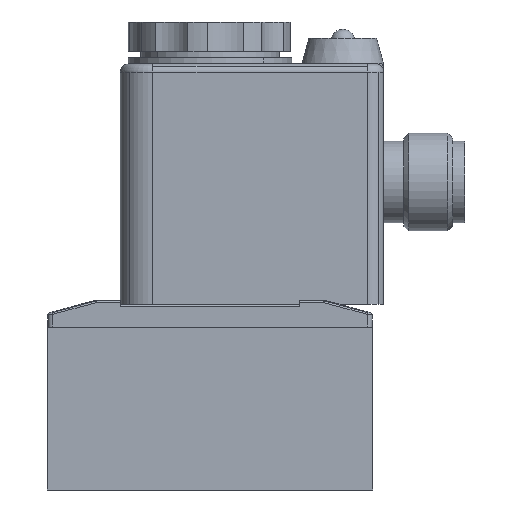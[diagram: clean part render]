
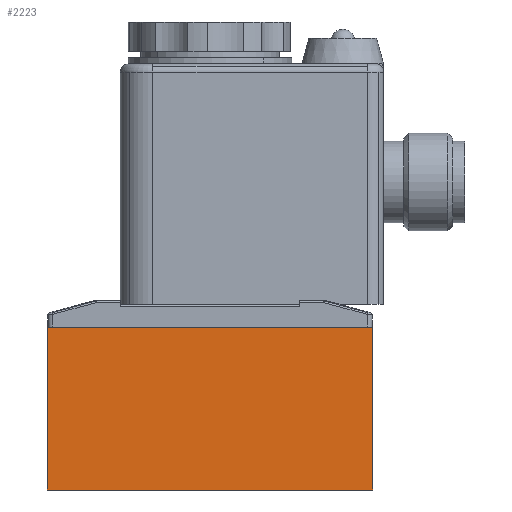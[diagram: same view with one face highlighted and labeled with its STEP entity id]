
A CAD part, front view. The second image highlights one B-rep face of the part: STEP entity #2223.
In plain terms, the highlighted planar face has unit normal (0, -1, 0).
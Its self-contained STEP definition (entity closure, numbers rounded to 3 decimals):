
#2046 = EDGE_CURVE ( 'NONE', #16296, #16231, #6320, .T. ) ;
#2223 = ADVANCED_FACE ( 'NONE', ( #6766 ), #7926, .T. ) ;
#2493 = EDGE_CURVE ( 'NONE', #16301, #16296, #11892, .T. ) ;
#2495 = EDGE_CURVE ( 'NONE', #16301, #16292, #11894, .T. ) ;
#2499 = EDGE_CURVE ( 'NONE', #16292, #16231, #13222, .T. ) ;
#3473 = AXIS2_PLACEMENT_3D ( 'NONE', #7925, #7932, #7933 ) ;
#4319 = EDGE_LOOP ( 'NONE', ( #8538, #8490, #8512, #8533 ) ) ;
#6317 = VECTOR ( 'NONE', #6828, 1000. ) ;
#6320 = LINE ( 'NONE', #6827, #6317 ) ;
#6766 = FACE_OUTER_BOUND ( 'NONE', #4319, .T. ) ;
#6827 = CARTESIAN_POINT ( 'NONE',  ( 20., -12.5, 20. ) ) ;
#6828 = DIRECTION ( 'NONE',  ( -1., 0., 0. ) ) ;
#7925 = CARTESIAN_POINT ( 'NONE',  ( 20., -12.5, 0. ) ) ;
#7926 = PLANE ( 'NONE',  #3473 ) ;
#7932 = DIRECTION ( 'NONE',  ( 0., -1., 0. ) ) ;
#7933 = DIRECTION ( 'NONE',  ( 0.707, 0., 0.707 ) ) ;
#8490 = ORIENTED_EDGE ( 'NONE', *, *, #2499, .F. ) ;
#8512 = ORIENTED_EDGE ( 'NONE', *, *, #2495, .F. ) ;
#8533 = ORIENTED_EDGE ( 'NONE', *, *, #2493, .T. ) ;
#8538 = ORIENTED_EDGE ( 'NONE', *, *, #2046, .T. ) ;
#11892 = LINE ( 'NONE', #12583, #11898 ) ;
#11894 = LINE ( 'NONE', #12588, #11900 ) ;
#11898 = VECTOR ( 'NONE', #12584, 1000. ) ;
#11900 = VECTOR ( 'NONE', #12589, 1000. ) ;
#12583 = CARTESIAN_POINT ( 'NONE',  ( 20., -12.5, 0. ) ) ;
#12584 = DIRECTION ( 'NONE',  ( 0., 0., 1. ) ) ;
#12588 = CARTESIAN_POINT ( 'NONE',  ( 20., -12.5, 0. ) ) ;
#12589 = DIRECTION ( 'NONE',  ( -1., 0., 0. ) ) ;
#12597 = CARTESIAN_POINT ( 'NONE',  ( -20., -12.5, 0. ) ) ;
#12598 = DIRECTION ( 'NONE',  ( 0., 0., 1. ) ) ;
#13222 = LINE ( 'NONE', #12597, #13226 ) ;
#13226 = VECTOR ( 'NONE', #12598, 1000. ) ;
#15404 = CARTESIAN_POINT ( 'NONE',  ( -20., -12.5, 20. ) ) ;
#15465 = CARTESIAN_POINT ( 'NONE',  ( -20., -12.5, 0. ) ) ;
#15469 = CARTESIAN_POINT ( 'NONE',  ( 20., -12.5, 20. ) ) ;
#15474 = CARTESIAN_POINT ( 'NONE',  ( 20., -12.5, 0. ) ) ;
#16231 = VERTEX_POINT ( 'NONE', #15404 ) ;
#16292 = VERTEX_POINT ( 'NONE', #15465 ) ;
#16296 = VERTEX_POINT ( 'NONE', #15469 ) ;
#16301 = VERTEX_POINT ( 'NONE', #15474 ) ;
